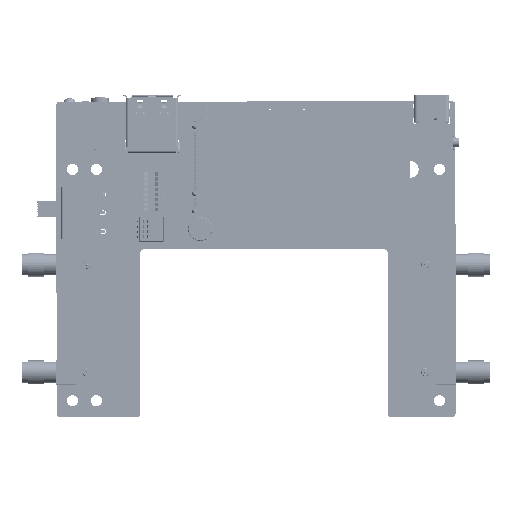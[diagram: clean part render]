
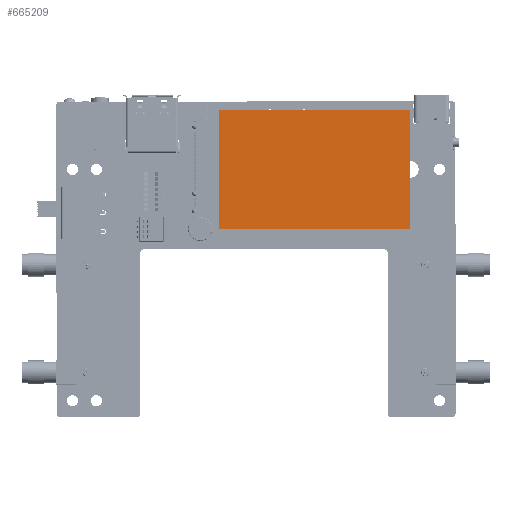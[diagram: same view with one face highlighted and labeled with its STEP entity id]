
A CAD part, top view. The second image highlights one B-rep face of the part: STEP entity #665209.
In plain terms, the highlighted planar face has unit normal (0, 0, 1).
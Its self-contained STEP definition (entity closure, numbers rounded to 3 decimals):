
#664895 = VERTEX_POINT('',#664896);
#664896 = CARTESIAN_POINT('',(-24.003,-14.986,1.5));
#664903 = PLANE('',#664904);
#664904 = AXIS2_PLACEMENT_3D('',#664905,#664906,#664907);
#664905 = CARTESIAN_POINT('',(-24.003,-14.986,0.));
#664906 = DIRECTION('',(-1.,0.,0.));
#664907 = DIRECTION('',(0.,1.,0.));
#664915 = PLANE('',#664916);
#664916 = AXIS2_PLACEMENT_3D('',#664917,#664918,#664919);
#664917 = CARTESIAN_POINT('',(24.003,-14.986,0.));
#664918 = DIRECTION('',(0.,-1.,0.));
#664919 = DIRECTION('',(-1.,0.,0.));
#664927 = EDGE_CURVE('',#664895,#664928,#664930,.T.);
#664928 = VERTEX_POINT('',#664929);
#664929 = CARTESIAN_POINT('',(-24.003,14.986,1.5));
#664930 = SURFACE_CURVE('',#664931,(#664935,#664942),.PCURVE_S1.);
#664931 = LINE('',#664932,#664933);
#664932 = CARTESIAN_POINT('',(-24.003,-14.986,1.5));
#664933 = VECTOR('',#664934,1.);
#664934 = DIRECTION('',(0.,1.,0.));
#664935 = PCURVE('',#664903,#664936);
#664936 = DEFINITIONAL_REPRESENTATION('',(#664937),#664941);
#664937 = LINE('',#664938,#664939);
#664938 = CARTESIAN_POINT('',(0.,-1.5));
#664939 = VECTOR('',#664940,1.);
#664940 = DIRECTION('',(1.,0.));
#664941 = ( GEOMETRIC_REPRESENTATION_CONTEXT(2) 
PARAMETRIC_REPRESENTATION_CONTEXT() REPRESENTATION_CONTEXT('2D SPACE',''
  ) );
#664942 = PCURVE('',#664943,#664948);
#664943 = PLANE('',#664944);
#664944 = AXIS2_PLACEMENT_3D('',#664945,#664946,#664947);
#664945 = CARTESIAN_POINT('',(-24.003,-14.986,1.5));
#664946 = DIRECTION('',(0.,0.,1.));
#664947 = DIRECTION('',(1.,0.,0.));
#664948 = DEFINITIONAL_REPRESENTATION('',(#664949),#664953);
#664949 = LINE('',#664950,#664951);
#664950 = CARTESIAN_POINT('',(0.,0.));
#664951 = VECTOR('',#664952,1.);
#664952 = DIRECTION('',(0.,1.));
#664953 = ( GEOMETRIC_REPRESENTATION_CONTEXT(2) 
PARAMETRIC_REPRESENTATION_CONTEXT() REPRESENTATION_CONTEXT('2D SPACE',''
  ) );
#664971 = PLANE('',#664972);
#664972 = AXIS2_PLACEMENT_3D('',#664973,#664974,#664975);
#664973 = CARTESIAN_POINT('',(-24.003,14.986,0.));
#664974 = DIRECTION('',(0.,1.,0.));
#664975 = DIRECTION('',(1.,0.,0.));
#665013 = EDGE_CURVE('',#664928,#665014,#665016,.T.);
#665014 = VERTEX_POINT('',#665015);
#665015 = CARTESIAN_POINT('',(24.003,14.986,1.5));
#665016 = SURFACE_CURVE('',#665017,(#665021,#665028),.PCURVE_S1.);
#665017 = LINE('',#665018,#665019);
#665018 = CARTESIAN_POINT('',(-24.003,14.986,1.5));
#665019 = VECTOR('',#665020,1.);
#665020 = DIRECTION('',(1.,0.,0.));
#665021 = PCURVE('',#664971,#665022);
#665022 = DEFINITIONAL_REPRESENTATION('',(#665023),#665027);
#665023 = LINE('',#665024,#665025);
#665024 = CARTESIAN_POINT('',(0.,-1.5));
#665025 = VECTOR('',#665026,1.);
#665026 = DIRECTION('',(1.,0.));
#665027 = ( GEOMETRIC_REPRESENTATION_CONTEXT(2) 
PARAMETRIC_REPRESENTATION_CONTEXT() REPRESENTATION_CONTEXT('2D SPACE',''
  ) );
#665028 = PCURVE('',#664943,#665029);
#665029 = DEFINITIONAL_REPRESENTATION('',(#665030),#665034);
#665030 = LINE('',#665031,#665032);
#665031 = CARTESIAN_POINT('',(0.,29.972));
#665032 = VECTOR('',#665033,1.);
#665033 = DIRECTION('',(1.,0.));
#665034 = ( GEOMETRIC_REPRESENTATION_CONTEXT(2) 
PARAMETRIC_REPRESENTATION_CONTEXT() REPRESENTATION_CONTEXT('2D SPACE',''
  ) );
#665052 = PLANE('',#665053);
#665053 = AXIS2_PLACEMENT_3D('',#665054,#665055,#665056);
#665054 = CARTESIAN_POINT('',(24.003,14.986,0.));
#665055 = DIRECTION('',(1.,0.,0.));
#665056 = DIRECTION('',(0.,-1.,0.));
#665089 = EDGE_CURVE('',#665014,#665090,#665092,.T.);
#665090 = VERTEX_POINT('',#665091);
#665091 = CARTESIAN_POINT('',(24.003,-14.986,1.5));
#665092 = SURFACE_CURVE('',#665093,(#665097,#665104),.PCURVE_S1.);
#665093 = LINE('',#665094,#665095);
#665094 = CARTESIAN_POINT('',(24.003,14.986,1.5));
#665095 = VECTOR('',#665096,1.);
#665096 = DIRECTION('',(0.,-1.,0.));
#665097 = PCURVE('',#665052,#665098);
#665098 = DEFINITIONAL_REPRESENTATION('',(#665099),#665103);
#665099 = LINE('',#665100,#665101);
#665100 = CARTESIAN_POINT('',(0.,-1.5));
#665101 = VECTOR('',#665102,1.);
#665102 = DIRECTION('',(1.,0.));
#665103 = ( GEOMETRIC_REPRESENTATION_CONTEXT(2) 
PARAMETRIC_REPRESENTATION_CONTEXT() REPRESENTATION_CONTEXT('2D SPACE',''
  ) );
#665104 = PCURVE('',#664943,#665105);
#665105 = DEFINITIONAL_REPRESENTATION('',(#665106),#665110);
#665106 = LINE('',#665107,#665108);
#665107 = CARTESIAN_POINT('',(48.006,29.972));
#665108 = VECTOR('',#665109,1.);
#665109 = DIRECTION('',(0.,-1.));
#665110 = ( GEOMETRIC_REPRESENTATION_CONTEXT(2) 
PARAMETRIC_REPRESENTATION_CONTEXT() REPRESENTATION_CONTEXT('2D SPACE',''
  ) );
#665160 = EDGE_CURVE('',#665090,#664895,#665161,.T.);
#665161 = SURFACE_CURVE('',#665162,(#665166,#665173),.PCURVE_S1.);
#665162 = LINE('',#665163,#665164);
#665163 = CARTESIAN_POINT('',(24.003,-14.986,1.5));
#665164 = VECTOR('',#665165,1.);
#665165 = DIRECTION('',(-1.,0.,0.));
#665166 = PCURVE('',#664915,#665167);
#665167 = DEFINITIONAL_REPRESENTATION('',(#665168),#665172);
#665168 = LINE('',#665169,#665170);
#665169 = CARTESIAN_POINT('',(0.,-1.5));
#665170 = VECTOR('',#665171,1.);
#665171 = DIRECTION('',(1.,0.));
#665172 = ( GEOMETRIC_REPRESENTATION_CONTEXT(2) 
PARAMETRIC_REPRESENTATION_CONTEXT() REPRESENTATION_CONTEXT('2D SPACE',''
  ) );
#665173 = PCURVE('',#664943,#665174);
#665174 = DEFINITIONAL_REPRESENTATION('',(#665175),#665179);
#665175 = LINE('',#665176,#665177);
#665176 = CARTESIAN_POINT('',(48.006,0.));
#665177 = VECTOR('',#665178,1.);
#665178 = DIRECTION('',(-1.,0.));
#665179 = ( GEOMETRIC_REPRESENTATION_CONTEXT(2) 
PARAMETRIC_REPRESENTATION_CONTEXT() REPRESENTATION_CONTEXT('2D SPACE',''
  ) );
#665209 = ADVANCED_FACE('',(#665210),#664943,.T.);
#665210 = FACE_BOUND('',#665211,.F.);
#665211 = EDGE_LOOP('',(#665212,#665213,#665214,#665215));
#665212 = ORIENTED_EDGE('',*,*,#664927,.T.);
#665213 = ORIENTED_EDGE('',*,*,#665013,.T.);
#665214 = ORIENTED_EDGE('',*,*,#665089,.T.);
#665215 = ORIENTED_EDGE('',*,*,#665160,.T.);
